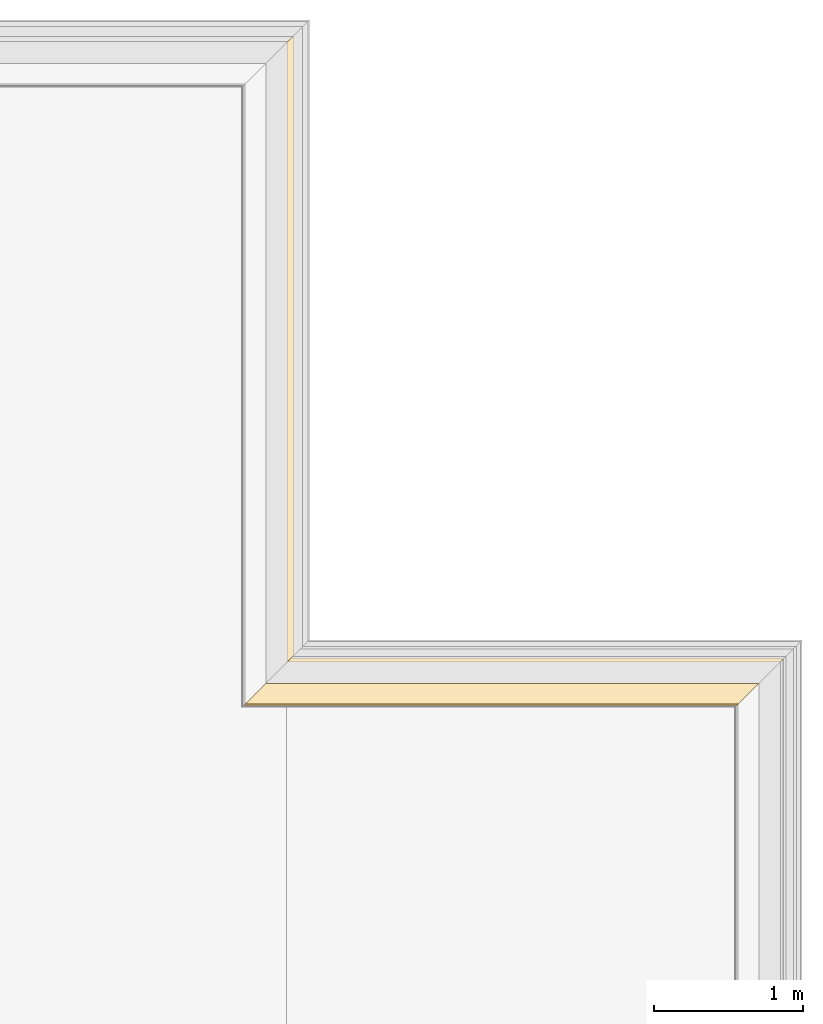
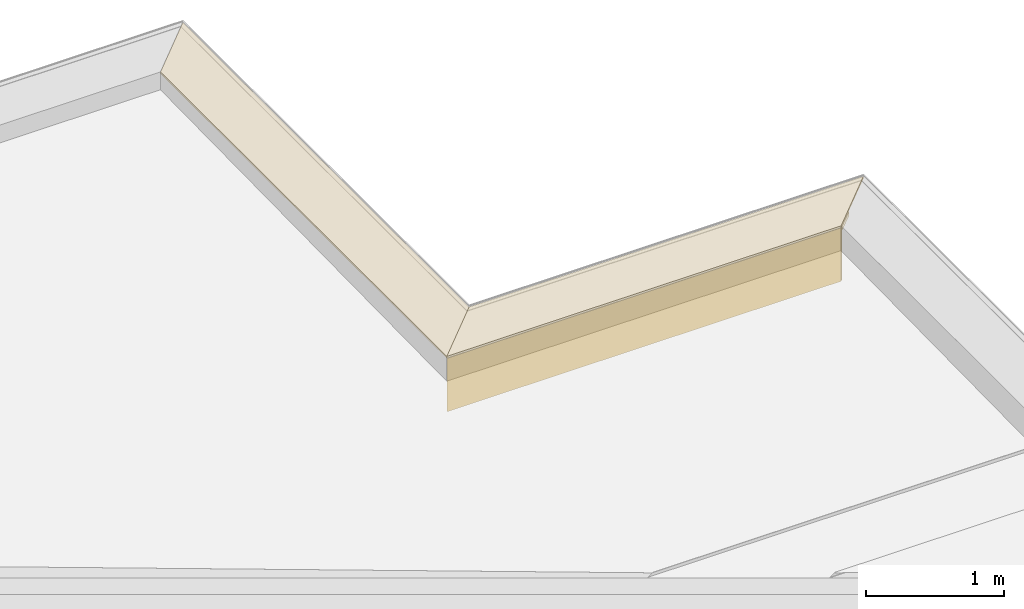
# One storey, part 16 of 16: 4 coverings, 2 elements without a shape of their own.
"""IFC2X3 building model written with IfcOpenShell, lengths in millimetres."""

from ifc_helpers import new_model, entity, si_unit, converted_unit, derived_unit, money_unit, direction, frame, origin_with_axes, place, context, subcontext, project, spatial, faceted_brep, material, type_object, element, aggregate, save


model = new_model("IFC2X3")

# Units and contexts
model_context = context("Model", 3, precision=0.01, world=origin_with_axes(), true_north=direction((0.0, 1.0)))
body_context = subcontext(model_context, "Body", "Model", "MODEL_VIEW")
ifc_project = project(units=[si_unit("LENGTHUNIT", "METRE", prefix="MILLI"), si_unit("AREAUNIT", "SQUARE_METRE"), si_unit("VOLUMEUNIT", "CUBIC_METRE"), converted_unit("PLANEANGLEUNIT", "DEGREE", entity("IfcPlaneAngleMeasure", 0.0174532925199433), si_unit("PLANEANGLEUNIT", "RADIAN"), dimensions=[0, 0, 0, 0, 0, 0, 0]), money_unit("EUR"), converted_unit("TIMEUNIT", "Year", entity("IfcTimeMeasure", 31556926.0), si_unit("TIMEUNIT", "SECOND"), dimensions=[0, 0, 1, 0, 0, 0, 0]), si_unit("MASSUNIT", "GRAM", prefix="KILO"), si_unit("THERMODYNAMICTEMPERATUREUNIT", "DEGREE_CELSIUS"), si_unit("LUMINOUSINTENSITYUNIT", "LUMEN"), si_unit("ENERGYUNIT", "JOULE", prefix="MEGA"), derived_unit("THERMALCONDUCTANCEUNIT", [(si_unit("POWERUNIT", "WATT"), 1), (si_unit("LENGTHUNIT", "METRE"), -1), (si_unit("THERMODYNAMICTEMPERATUREUNIT", "KELVIN"), -1)]), derived_unit("SPECIFICHEATCAPACITYUNIT", [(si_unit("ENERGYUNIT", "JOULE"), 1), (si_unit("MASSUNIT", "GRAM", prefix="KILO"), -1), (si_unit("THERMODYNAMICTEMPERATUREUNIT", "KELVIN"), -1)]), derived_unit("MASSDENSITYUNIT", [(si_unit("MASSUNIT", "GRAM", prefix="KILO"), 1), (si_unit("VOLUMEUNIT", "CUBIC_METRE"), -1)])], contexts=[model_context])

# Site, building, storey
site_placement = place(None, origin_with_axes())
site = spatial("IfcSite", under=ifc_project, at=site_placement, Name="Site", CompositionType="ELEMENT")
building_placement = place(site_placement, origin_with_axes())
building = spatial("IfcBuilding", under=site, at=building_placement, Name="Naam gebouw", CompositionType="ELEMENT")
storey_placement = place(building_placement, frame((0.0, 0.0, 7820.0), z_axis=(0.0, 0.0, 1.0), x_axis=(1.0, 0.0, 0.0)))
storey = spatial("IfcBuildingStorey", under=building, at=storey_placement, Name="2e dakoverzicht", CompositionType="ELEMENT", Elevation=7820.0)

# Beam, covering
beam_type_1 = type_object("IfcBeamType", Name="47 Isoniq M metselwerk 443 x 509", PredefinedType="BEAM")
beam_1_placement = place(storey_placement, frame((26600.0, 29175.0, 480.0000000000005), z_axis=(0.0, 0.0, 1.0), x_axis=(-1.0, 0.0, 0.0)))
beam_1 = element("IfcBeam", 1, at=beam_1_placement, inside=storey, type_object=beam_type_1, Name="28_Balk-x", ObjectType="BEAM")
ifc_material_1 = material(Name="Hout - Spaanplaat")
covering_1_placement = place(beam_1_placement, origin_with_axes())
covering_1 = element("IfcCovering", 2, at=covering_1_placement, material=ifc_material_1, Name="Hout - Spaanplaat", PredefinedType="NOTDEFINED", context=body_context, shape_type="Brep", body=[
    faceted_brep([(-285.3597197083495, 3864.664066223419, 8.27450903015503), (-285.3597197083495, -285.3597197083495, 8.27450903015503), (-284.7348565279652, -284.7348565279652, 26.26365084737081), (-284.7348565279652, 3865.288929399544, 26.26365084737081), (154.3750810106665, 4304.398863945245, -7.000004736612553), (154.3750810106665, 154.3750810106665, -7.000004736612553), (155.0000045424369, 155.0000045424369, 10.98915216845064), (155.0000045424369, 4305.023787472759, 10.98915216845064)], [[[0, 1, 2, 3]], [[4, 5, 1, 0]], [[1, 5, 6, 2]], [[3, 2, 6, 7]], [[7, 4, 0, 3]], [[7, 6, 5, 4]]]),
])
aggregate(beam_1, [covering_1])

# Beam, coverings
beam_type_2 = type_object("IfcBeamType", Name="47 Isoniq M metselwerk overstek 443 x 1282", PredefinedType="BEAM")
beam_2_placement = place(storey_placement, frame((26600.0, 25024.97621406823, 480.0000000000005), z_axis=(0.0, 0.0, 1.0), x_axis=(0.0, -1.0, 0.0)))
beam_2 = element("IfcBeam", 3, at=beam_2_placement, inside=storey, type_object=beam_type_2, Name="28_Balk-x", ObjectType="BEAM")
ifc_material_2 = material(Name="Hout - Vloer")
covering_2_placement = place(beam_2_placement, origin_with_axes())
covering_2 = element("IfcCovering", 4, at=covering_2_placement, material=ifc_material_2, Name="Hout - Vloer", PredefinedType="NOTDEFINED", context=body_context, shape_type="Brep", body=[
    faceted_brep([(-1.701266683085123e-06, 3300.00000170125, -9.998211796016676), (-1.701266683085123e-06, 3300.00000170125, -48.00000479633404), (-1.701266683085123e-06, -2.437126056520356e-07, -48.00000479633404), (-1.701266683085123e-06, -2.437126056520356e-07, -9.998211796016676), (139.9484923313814, 3160.051507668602, -9.999995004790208), (140.0000009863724, 3159.999999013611, -47.99999774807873), (140.0000009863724, -140.0000038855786, -47.99999774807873), (139.9484923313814, -139.9484952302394, -9.999995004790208)], [[[0, 1, 2, 3]], [[0, 4, 5, 1]], [[1, 5, 6, 2]], [[3, 2, 6, 7]], [[4, 0, 3, 7]], [[5, 4, 7, 6]]]),
])
ifc_material_3 = material(Name="Hout - Multiplex")
covering_3_placement = place(beam_2_placement, origin_with_axes())
covering_3 = element("IfcCovering", 5, at=covering_3_placement, material=ifc_material_3, Name="Hout - Multiplex", PredefinedType="NOTDEFINED", context=body_context, shape_type="Brep", body=[
    faceted_brep([(140.0000016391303, 3159.999998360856, -47.99999765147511), (140.0000016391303, 3159.999998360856, -479.9999999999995), (140.0000016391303, -140.0000045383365, -479.9999999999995), (140.0000016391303, -140.0000045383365, -47.99999765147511), (140.0000016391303, 3159.999998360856, -6.99999645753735), (154.3750810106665, 3145.624918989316, -7.000004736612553), (155.0000027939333, 3144.99999720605, -6.99999645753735), (155.0000027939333, 3144.99999720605, -479.9999999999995), (155.0000027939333, -155.0000057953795, -479.9999999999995), (155.0000027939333, -155.0000057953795, -6.99999645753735), (154.3750810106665, -154.375084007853, -7.000004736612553), (140.0000016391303, -140.0000045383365, -6.99999645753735)], [[[0, 1, 2, 3]], [[0, 4, 5, 6, 7, 1]], [[1, 7, 8, 2]], [[3, 2, 8, 9, 10, 11]], [[4, 0, 3, 11]], [[5, 4, 11, 10]], [[6, 5, 10, 9]], [[7, 6, 9, 8]]]),
])
covering_4_placement = place(beam_2_placement, origin_with_axes())
covering_4 = element("IfcCovering", 6, at=covering_4_placement, material=ifc_material_1, Name="Hout - Spaanplaat", PredefinedType="NOTDEFINED", context=body_context, shape_type="Brep", body=[
    faceted_brep([(-285.3597197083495, 3585.359719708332, 8.27450903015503), (-285.3597197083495, 285.3597197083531, 8.27450903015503), (-284.7348565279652, 284.7348565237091, 26.26365084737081), (-284.7348565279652, 3584.734856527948, 26.26365084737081), (154.3750810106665, 3145.624918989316, -7.000004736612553), (154.3750810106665, -154.375084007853, -7.000004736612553), (155.0000045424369, -155.0000075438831, 10.98915216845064), (155.0000045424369, 3144.999995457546, 10.98915216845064)], [[[0, 1, 2, 3]], [[4, 5, 1, 0]], [[1, 5, 6, 2]], [[3, 2, 6, 7]], [[7, 4, 0, 3]], [[7, 6, 5, 4]]]),
])
aggregate(beam_2, [covering_2, covering_3, covering_4])

save(model, "model.ifc")
